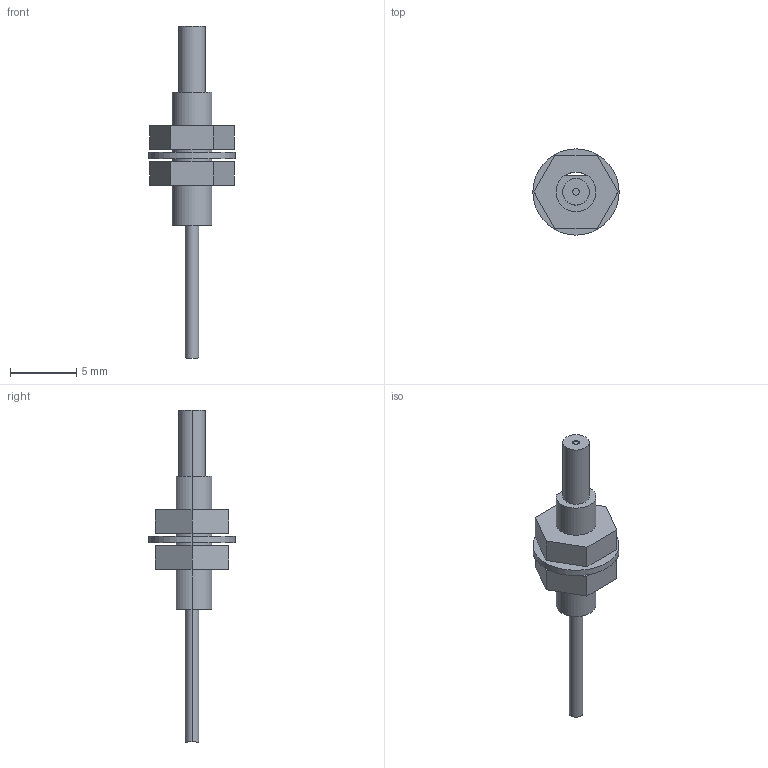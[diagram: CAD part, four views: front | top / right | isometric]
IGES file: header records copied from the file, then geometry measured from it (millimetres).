
Start section: SolidWorks IGES FILE using analytic representation for surfaces
Global section: file name: \\intra-srv04\開発データ\CAD_Data\CAD委員会\3D電子ｶﾀﾛｸﾞ\製品カタログ（新）\0_IGES\FT-NFM2.IGS,41HSolidWorks 2004; native system: by SolidWorks Corporation; preprocessor: Version 5.3; author: mf1158; date: 050908.111503; units: millimetre
Bounding box: 6.5 x 6.5 x 25 mm (x, y, z)
Volume: 172.5 mm3; surface area: 415.5 mm2
Topology: 4 solids, 4 shells, 41 faces, 90 edges, 60 vertices
Faces by surface type: plane 24, revolution 17
